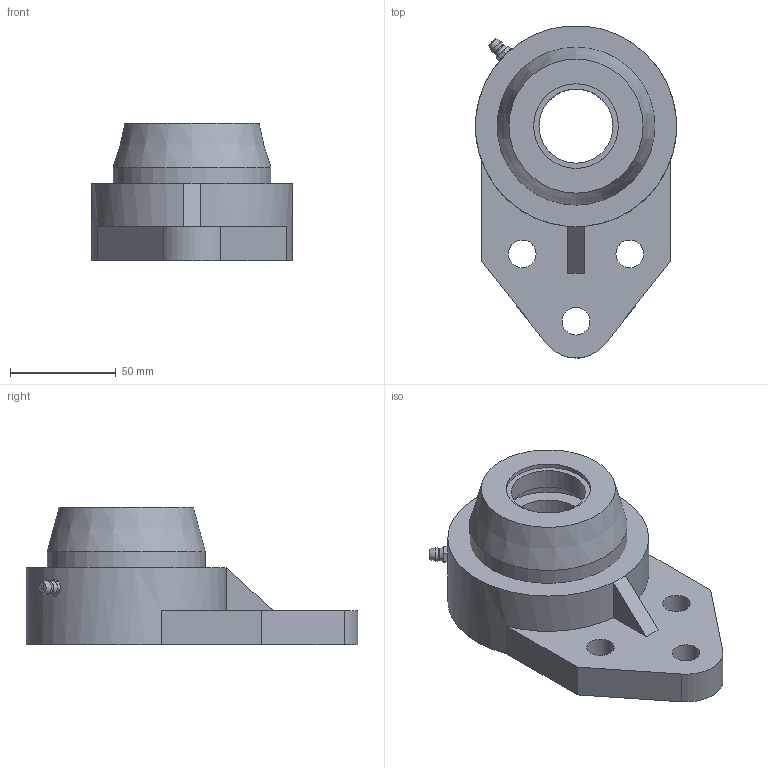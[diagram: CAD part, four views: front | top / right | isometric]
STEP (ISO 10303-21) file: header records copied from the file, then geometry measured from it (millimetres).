
FILE_DESCRIPTION(/* description */ (''),/* implementation_level */ '2;1');
FILE_NAME(/* name */ 'C:\Users\UGijyutu_200702\Desktop\77.プラスチックハウジング\MBFBL200V\MBFBL200VC\MBFBL207VC.stp',/* time_stamp */ '2023-05-08T16:18:15+09:00',/* author */ ('UGijyutu_200702'),/* organization */ (''),/* preprocessor_version */ 'ST-DEVELOPER v18',/* originating_system */ 'Autodesk Inventor 2020',/* authorisation */ '');
FILE_SCHEMA (('AUTOMOTIVE_DESIGN { 1 0 10303 214 3 1 1 }'));
Length unit declared in the file: millimetre
Products named in the file (5): MBFBL207VC; FBL207; MB7 V; 1/4-28UNF-2A; 207C
Assembly tree (4 placements, depth 2):
  MBFBL207VC
    FBL207
    MB7 V
    1/4-28UNF-2A
    207C
Bounding box: 94.98 x 156.78 x 65.1 mm (x, y, z)
Volume: 266231.3 mm3; surface area: 76082.6 mm2
Topology: 4 solids, 4 shells, 96 faces, 234 edges, 161 vertices
Faces by surface type: plane 49, cylinder 24, cone 17, sphere 4, torus 2
Full cylindrical faces by diameter (mm): 3.2 x1, 4.978 x1, 6 x2, 6.35 x1, 13.1 x3, 35 x2, 40 x1, 48 x1, 51 x1, 70.6 x1, 74 x2, 74.6 x1, 82 x1
Entity records: 3325 total; most frequent: CARTESIAN_POINT 754, DIRECTION 511, ORIENTED_EDGE 466, EDGE_CURVE 233, AXIS2_PLACEMENT_3D 211, VERTEX_POINT 161, EDGE_LOOP 126, CIRCLE 106
